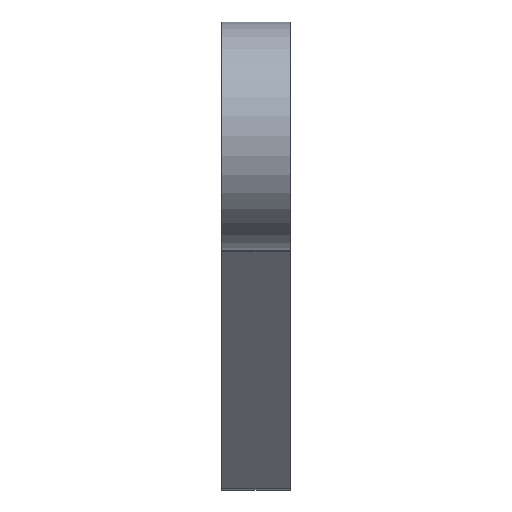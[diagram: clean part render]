
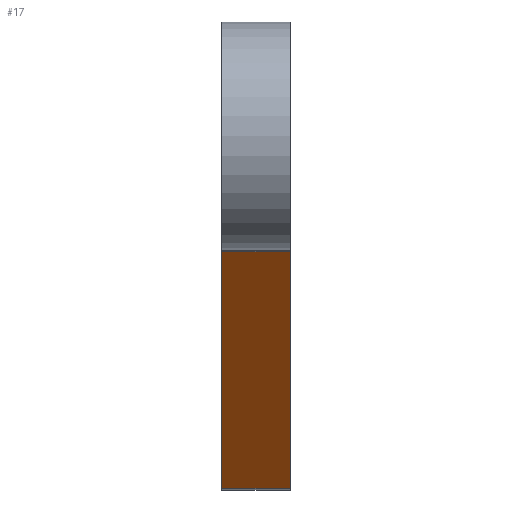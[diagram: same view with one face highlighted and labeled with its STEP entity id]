
A CAD part, left-side view. The second image highlights one B-rep face of the part: STEP entity #17.
In plain terms, the highlighted planar face has unit normal (-0.38, 0, -0.925).
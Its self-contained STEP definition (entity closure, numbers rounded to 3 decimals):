
#17 = ADVANCED_FACE ( 'NONE', ( #471 ), #833, .F. ) ;
#21 = ORIENTED_EDGE ( 'NONE', *, *, #583, .T. ) ;
#48 = ORIENTED_EDGE ( 'NONE', *, *, #272, .T. ) ;
#68 = CARTESIAN_POINT ( 'NONE',  ( 15.457, 4.5, -6.468 ) ) ;
#104 = ORIENTED_EDGE ( 'NONE', *, *, #413, .F. ) ;
#110 = VECTOR ( 'NONE', #1055, 1000. ) ;
#183 = AXIS2_PLACEMENT_3D ( 'NONE', #654, #1006, #1025 ) ;
#226 = VERTEX_POINT ( 'NONE', #900 ) ;
#270 = VERTEX_POINT ( 'NONE', #995 ) ;
#272 = EDGE_CURVE ( 'NONE', #809, #226, #641, .T. ) ;
#413 = EDGE_CURVE ( 'NONE', #809, #540, #1107, .T. ) ;
#471 = FACE_OUTER_BOUND ( 'NONE', #485, .T. ) ;
#485 = EDGE_LOOP ( 'NONE', ( #21, #688, #104, #48 ) ) ;
#540 = VERTEX_POINT ( 'NONE', #1040 ) ;
#583 = EDGE_CURVE ( 'NONE', #226, #270, #872, .T. ) ;
#641 = LINE ( 'NONE', #825, #985 ) ;
#654 = CARTESIAN_POINT ( 'NONE',  ( 15.457, 4.5, -6.468 ) ) ;
#672 = CARTESIAN_POINT ( 'NONE',  ( 15.457, 4.5, -6.468 ) ) ;
#688 = ORIENTED_EDGE ( 'NONE', *, *, #708, .F. ) ;
#708 = EDGE_CURVE ( 'NONE', #540, #270, #932, .T. ) ;
#763 = VECTOR ( 'NONE', #779, 1000. ) ;
#779 = DIRECTION ( 'NONE',  ( 0., -1., 0. ) ) ;
#804 = CARTESIAN_POINT ( 'NONE',  ( 65.85, 4.5, -27.187 ) ) ;
#809 = VERTEX_POINT ( 'NONE', #804 ) ;
#825 = CARTESIAN_POINT ( 'NONE',  ( 65.85, 4.5, -27.187 ) ) ;
#833 = PLANE ( 'NONE',  #183 ) ;
#872 = LINE ( 'NONE', #956, #110 ) ;
#900 = CARTESIAN_POINT ( 'NONE',  ( 65.85, -1.5, -27.187 ) ) ;
#909 = DIRECTION ( 'NONE',  ( 0., -1., 0. ) ) ;
#932 = LINE ( 'NONE', #672, #763 ) ;
#956 = CARTESIAN_POINT ( 'NONE',  ( 15.457, -1.5, -6.468 ) ) ;
#985 = VECTOR ( 'NONE', #909, 1000. ) ;
#995 = CARTESIAN_POINT ( 'NONE',  ( 15.457, -1.5, -6.468 ) ) ;
#1006 = DIRECTION ( 'NONE',  ( 0.38, 0., 0.925 ) ) ;
#1025 = DIRECTION ( 'NONE',  ( 0.925, 0., -0.38 ) ) ;
#1040 = CARTESIAN_POINT ( 'NONE',  ( 15.457, 4.5, -6.468 ) ) ;
#1055 = DIRECTION ( 'NONE',  ( -0.925, 0., 0.38 ) ) ;
#1065 = VECTOR ( 'NONE', #1119, 1000. ) ;
#1107 = LINE ( 'NONE', #68, #1065 ) ;
#1119 = DIRECTION ( 'NONE',  ( -0.925, 0., 0.38 ) ) ;
